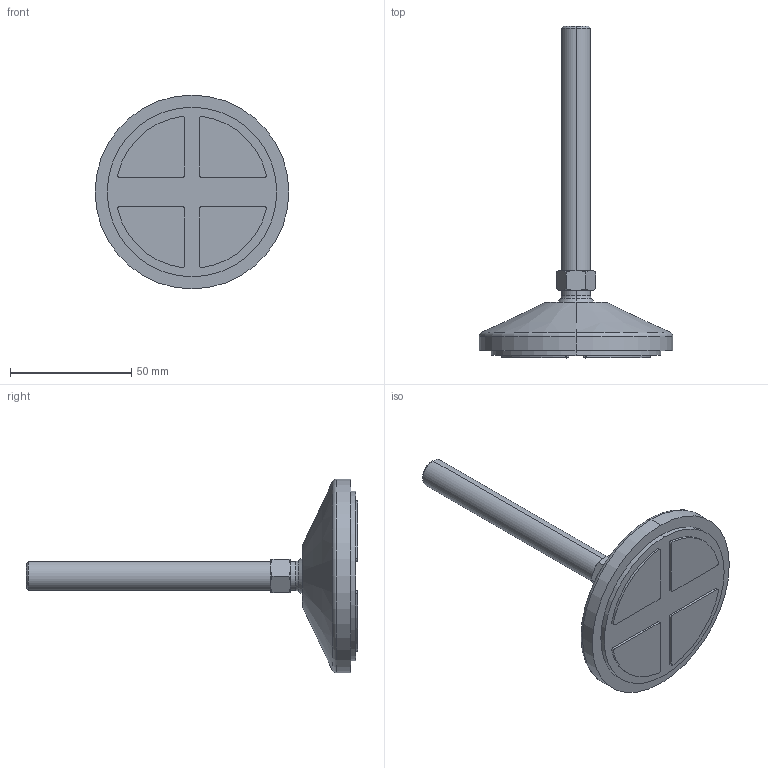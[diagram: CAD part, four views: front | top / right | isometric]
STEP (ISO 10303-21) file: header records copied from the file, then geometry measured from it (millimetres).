
FILE_DESCRIPTION (( 'STEP AP214' ), '1' );
FILE_NAME ('1.5022 S鳵t鐱alka D80 M12.STEP', '2025-09-17T08:18:41', ( '' ), ( '' ), 'SwSTEP 2.0', 'SolidWorks 2025', '' );
FILE_SCHEMA (( 'AUTOMOTIVE_DESIGN' ));
Length unit declared in the file: millimetre
Products named in the file (1): 1.5022 Säätöjalka D80 M12
Bounding box: 80 x 137 x 80 mm (x, y, z)
Volume: 88957.8 mm3; surface area: 17556.5 mm2
Topology: 1 solids, 1 shells, 79 faces, 190 edges, 122 vertices
Faces by surface type: cylinder 30, plane 25, cone 18, torus 6
Entity records: 3191 total; most frequent: CARTESIAN_POINT 496, DIRECTION 414, ORIENTED_EDGE 380, EDGE_CURVE 190, AXIS2_PLACEMENT_3D 168, VERTEX_POINT 122, CIRCLE 88, EDGE_LOOP 88
